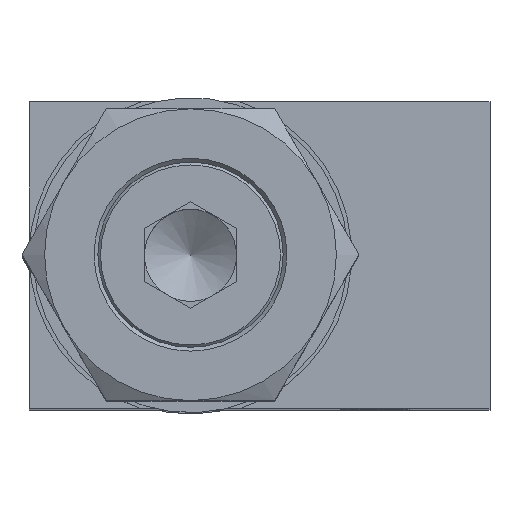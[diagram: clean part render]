
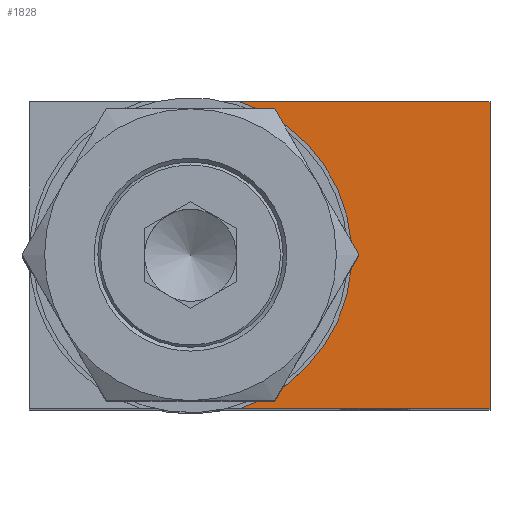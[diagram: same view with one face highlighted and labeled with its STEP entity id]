
A CAD part, top view. The second image highlights one B-rep face of the part: STEP entity #1828.
In plain terms, the highlighted planar face has unit normal (0, 0, 1).
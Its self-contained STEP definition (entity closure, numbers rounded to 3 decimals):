
#66=PLANE('',#2009);
#175=FACE_OUTER_BOUND('',#280,.T.);
#280=EDGE_LOOP('',(#1257,#1258,#1259,#1260));
#402=LINE('',#2897,#496);
#403=LINE('',#2899,#497);
#404=LINE('',#2900,#498);
#496=VECTOR('',#2318,10.);
#497=VECTOR('',#2319,10.);
#498=VECTOR('',#2320,10.);
#584=CIRCLE('',#1984,21.);
#713=VERTEX_POINT('',#2829);
#715=VERTEX_POINT('',#2832);
#738=VERTEX_POINT('',#2896);
#739=VERTEX_POINT('',#2898);
#911=EDGE_CURVE('',#715,#713,#584,.T.);
#943=EDGE_CURVE('',#738,#713,#402,.T.);
#944=EDGE_CURVE('',#738,#739,#403,.T.);
#945=EDGE_CURVE('',#715,#739,#404,.T.);
#1257=ORIENTED_EDGE('',*,*,#911,.T.);
#1258=ORIENTED_EDGE('',*,*,#943,.F.);
#1259=ORIENTED_EDGE('',*,*,#944,.T.);
#1260=ORIENTED_EDGE('',*,*,#945,.F.);
#1828=ADVANCED_FACE('',(#175),#66,.T.);
#1984=AXIS2_PLACEMENT_3D('',#2833,#2251,#2252);
#2009=AXIS2_PLACEMENT_3D('',#2895,#2316,#2317);
#2251=DIRECTION('center_axis',(0.,0.,-1.));
#2252=DIRECTION('ref_axis',(1.,0.,0.));
#2316=DIRECTION('center_axis',(0.,0.,1.));
#2317=DIRECTION('ref_axis',(1.,0.,0.));
#2318=DIRECTION('',(-1.,0.,0.));
#2319=DIRECTION('',(0.,1.,0.));
#2320=DIRECTION('',(1.,0.,0.));
#2829=CARTESIAN_POINT('',(-5.816,-19.42,50.));
#2832=CARTESIAN_POINT('',(-5.816,20.58,50.));
#2833=CARTESIAN_POINT('Origin',(-12.219,0.58,50.));
#2895=CARTESIAN_POINT('Origin',(-33.219,0.58,50.));
#2896=CARTESIAN_POINT('',(26.781,-19.42,50.));
#2897=CARTESIAN_POINT('',(-33.219,-19.42,50.));
#2898=CARTESIAN_POINT('',(26.781,20.58,50.));
#2899=CARTESIAN_POINT('',(26.781,0.58,50.));
#2900=CARTESIAN_POINT('',(-33.219,20.58,50.));
